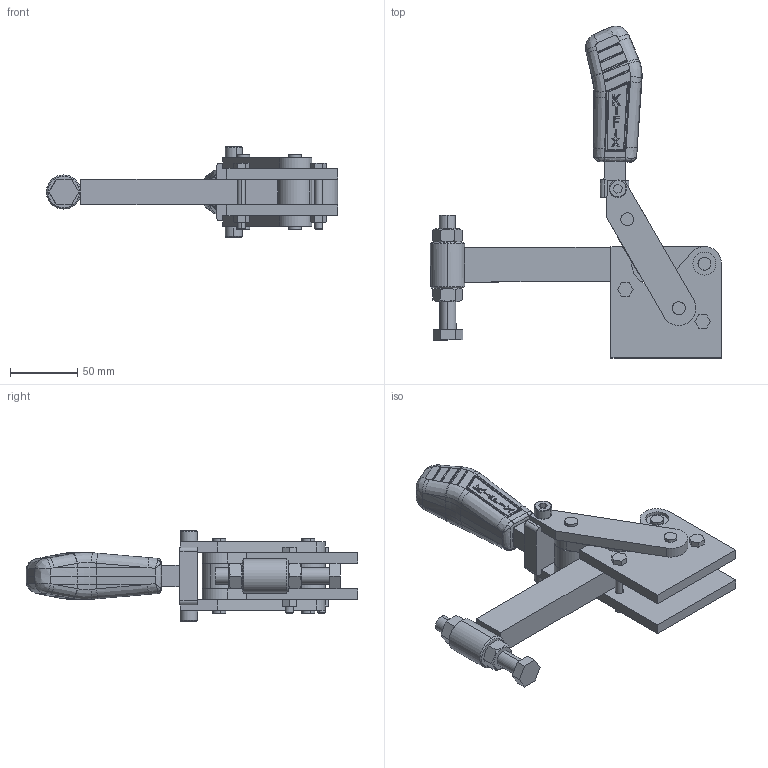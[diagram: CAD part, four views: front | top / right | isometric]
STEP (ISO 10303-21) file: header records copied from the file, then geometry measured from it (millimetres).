
FILE_DESCRIPTION (( 'STEP AP203' ), '1' );
FILE_NAME ('KF-845.STEP', '2014-08-13T21:21:32', ( 'Ricardo' ), ( '' ), 'SwSTEP 2.0', 'SolidWorks 2013', '' );
FILE_SCHEMA (( 'CONFIG_CONTROL_DESIGN' ));
Length unit declared in the file: millimetre
Products named in the file (19): 02.11089_Esquerdo; KF-845; 12.50002; 01.20027; 11.50001; 01.10219; 12.50091; 15.10130; 20.20006; 03.15033; 12.50022; 05.20064; 11.50004; 08.10091; PSB-M12; 16.20129; 02.11089_Direito; 07.60201; 16.20130
Assembly tree (27 placements, depth 3):
  KF-845
    02.11089_Direito
    02.11089_Esquerdo
    01.20027
    01.10219  x2
    15.10130
    03.15033
    05.20064  x2
    08.10091  x2
    16.20129  x2
    16.20130  x2
    12.50002  x2
    11.50001  x2
    12.50091  x2
    PSB-M12
      20.20006
      12.50022
      11.50004  x2
    07.60201
Bounding box: 215.98 x 246.13 x 66.86 mm (x, y, z)
Volume: 409328.5 mm3; surface area: 129943.2 mm2
Topology: 26 solids, 26 shells, 842 faces, 2106 edges, 1334 vertices
Faces by surface type: bspline 271, plane 264, cylinder 170, cone 82, sphere 52, torus 3
Entity records: 31218 total; most frequent: CARTESIAN_POINT 14072, ORIENTED_EDGE 3636, DIRECTION 2284, EDGE_CURVE 1818, VERTEX_POINT 1158, AXIS2_PLACEMENT_3D 890, B_SPLINE_CURVE_WITH_KNOTS 881, EDGE_LOOP 788
